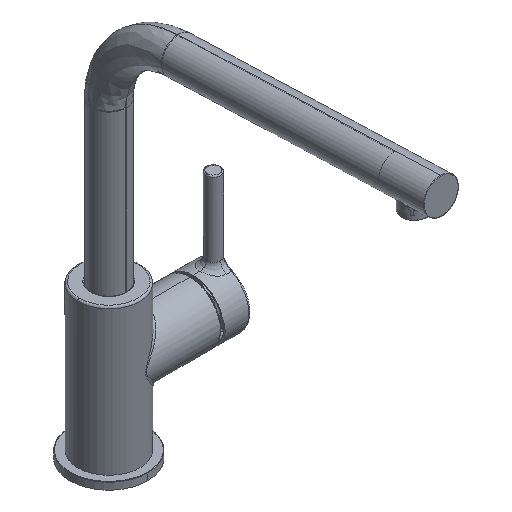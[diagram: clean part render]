
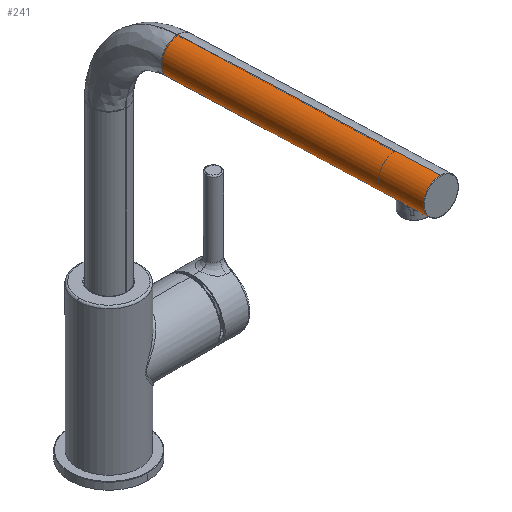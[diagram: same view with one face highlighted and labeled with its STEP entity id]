
A CAD part, isometric view. The second image highlights one B-rep face of the part: STEP entity #241.
In plain terms, the highlighted cylindrical face has radius 12 mm (diameter 24 mm), a partial arc.
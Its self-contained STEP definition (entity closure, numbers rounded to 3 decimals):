
#241=ADVANCED_FACE('',(#2442),#29660,.T.);
#2442=FACE_OUTER_BOUND('',#4591,.T.);
#4591=EDGE_LOOP('',(#7107,#7108,#7109,#7110,#7111,#7112,#7113));
#7107=ORIENTED_EDGE('',*,*,#16538,.T.);
#7108=ORIENTED_EDGE('',*,*,#16543,.F.);
#7109=ORIENTED_EDGE('',*,*,#16551,.T.);
#7110=ORIENTED_EDGE('',*,*,#16545,.F.);
#7111=ORIENTED_EDGE('',*,*,#16550,.T.);
#7112=ORIENTED_EDGE('',*,*,#16549,.T.);
#7113=ORIENTED_EDGE('',*,*,#16548,.F.);
#16538=EDGE_CURVE('',#26794,#26795,#25427,.T.);
#16543=EDGE_CURVE('',#26796,#26795,#21884,.T.);
#16545=EDGE_CURVE('',#26798,#26797,#21885,.T.);
#16548=EDGE_CURVE('',#26794,#26800,#21888,.T.);
#16549=EDGE_CURVE('',#26801,#26800,#21889,.T.);
#16550=EDGE_CURVE('',#26798,#26801,#21890,.T.);
#16551=EDGE_CURVE('',#26796,#26797,#25433,.T.);
#21884=B_SPLINE_CURVE_WITH_KNOTS('',1,(#42581,#42582),.UNSPECIFIED.,.F.,
 .F.,(2,2),(-181.556,0.),.UNSPECIFIED.);
#21885=B_SPLINE_CURVE_WITH_KNOTS('',1,(#42586,#42587),.UNSPECIFIED.,.F.,
 .F.,(2,2),(-153.756,0.),.UNSPECIFIED.);
#21888=B_SPLINE_CURVE_WITH_KNOTS('',1,(#42616,#42617),.UNSPECIFIED.,.F.,
 .F.,(2,2),(-9.6,0.),.UNSPECIFIED.);
#21889=B_SPLINE_CURVE_WITH_KNOTS('',3,(#42618,#42619,#42620,#42621,#42622,
#42623,#42624,#42625,#42626,#42627,#42628,#42629,#42630,#42631),
 .UNSPECIFIED.,.F.,.F.,(4,1,1,1,1,1,1,1,1,1,1,4),(-15.072,-13.702,
-12.331,-10.961,-9.591,-8.221,
-6.851,-5.481,-4.11,-2.74,
-1.37,0.),.UNSPECIFIED.);
#21890=B_SPLINE_CURVE_WITH_KNOTS('',3,(#42632,#42633,#42634,#42635,#42636,
#42637,#42638,#42639,#42640,#42641,#42642,#42643,#42644,#42645),
 .UNSPECIFIED.,.F.,.F.,(4,1,1,1,1,1,1,1,1,1,1,4),(-15.071,-13.701,
-12.331,-10.961,-9.591,-8.22,
-6.85,-5.48,-4.11,-2.74,
-1.37,0.),.UNSPECIFIED.);
#25427=TRIMMED_CURVE($,#26103,(#42567),(#42568),.T.,.CARTESIAN.);
#25433=TRIMMED_CURVE($,#26109,(#42647),(#42648),.T.,.CARTESIAN.);
#26103=CIRCLE('',#32879,12.);
#26109=CIRCLE('',#32885,12.);
#26794=VERTEX_POINT('',#42518);
#26795=VERTEX_POINT('',#42519);
#26796=VERTEX_POINT('',#42520);
#26797=VERTEX_POINT('',#42521);
#26798=VERTEX_POINT('',#42522);
#26800=VERTEX_POINT('',#42524);
#26801=VERTEX_POINT('',#42525);
#29660=CYLINDRICAL_SURFACE('',#32856,12.);
#32856=AXIS2_PLACEMENT_3D('',#42062,#35603,$);
#32879=AXIS2_PLACEMENT_3D($,#42566,#35627,#35628);
#32885=AXIS2_PLACEMENT_3D($,#42646,#35639,#35640);
#35603=DIRECTION('',(-0.999,-0.035,0.));
#35627=DIRECTION('',(-0.999,-0.035,0.));
#35628=DIRECTION('',(0.035,-0.999,0.));
#35639=DIRECTION('',(0.999,0.035,0.));
#35640=DIRECTION('',(-0.035,0.999,0.));
#42062=CARTESIAN_POINT('',(138.978,165.821,0.));
#42518=CARTESIAN_POINT('',(230.119,156.997,0.));
#42519=CARTESIAN_POINT('',(229.281,180.982,0.));
#42520=CARTESIAN_POINT('',(47.836,174.646,0.));
#42521=CARTESIAN_POINT('',(48.674,150.661,0.));
#42522=CARTESIAN_POINT('',(202.336,156.027,0.));
#42524=CARTESIAN_POINT('',(220.525,156.662,0.));
#42525=CARTESIAN_POINT('',(211.285,160.519,9.1));
#42566=CARTESIAN_POINT('',(229.7,168.99,0.));
#42567=CARTESIAN_POINT('',(230.119,156.997,0.));
#42568=CARTESIAN_POINT('',(229.281,180.982,0.));
#42581=CARTESIAN_POINT('',(47.836,174.646,0.));
#42582=CARTESIAN_POINT('',(229.281,180.982,0.));
#42586=CARTESIAN_POINT('',(202.336,156.027,0.));
#42587=CARTESIAN_POINT('',(48.674,150.661,0.));
#42616=CARTESIAN_POINT('',(230.119,156.997,0.));
#42617=CARTESIAN_POINT('',(220.525,156.662,0.));
#42618=CARTESIAN_POINT('',(211.285,160.519,9.1));
#42619=CARTESIAN_POINT('',(211.657,160.532,9.1));
#42620=CARTESIAN_POINT('',(212.395,160.505,9.055));
#42621=CARTESIAN_POINT('',(213.5,160.313,8.851));
#42622=CARTESIAN_POINT('',(214.533,160.008,8.529));
#42623=CARTESIAN_POINT('',(215.478,159.639,8.114));
#42624=CARTESIAN_POINT('',(216.357,159.23,7.61));
#42625=CARTESIAN_POINT('',(217.241,158.764,6.967));
#42626=CARTESIAN_POINT('',(218.16,158.229,6.108));
#42627=CARTESIAN_POINT('',(219.082,157.647,4.942));
#42628=CARTESIAN_POINT('',(219.861,157.125,3.515));
#42629=CARTESIAN_POINT('',(220.406,156.746,1.787));
#42630=CARTESIAN_POINT('',(220.525,156.662,0.605));
#42631=CARTESIAN_POINT('',(220.525,156.662,0.));
#42632=CARTESIAN_POINT('',(202.336,156.027,0.));
#42633=CARTESIAN_POINT('',(202.336,156.027,0.586));
#42634=CARTESIAN_POINT('',(202.442,156.114,1.735));
#42635=CARTESIAN_POINT('',(202.933,156.509,3.429));
#42636=CARTESIAN_POINT('',(203.651,157.068,4.853));
#42637=CARTESIAN_POINT('',(204.522,157.71,6.037));
#42638=CARTESIAN_POINT('',(205.413,158.319,6.923));
#42639=CARTESIAN_POINT('',(206.27,158.853,7.58));
#42640=CARTESIAN_POINT('',(207.122,159.328,8.093));
#42641=CARTESIAN_POINT('',(208.044,159.768,8.516));
#42642=CARTESIAN_POINT('',(209.064,160.151,8.845));
#42643=CARTESIAN_POINT('',(210.16,160.425,9.053));
#42644=CARTESIAN_POINT('',(210.905,160.506,9.1));
#42645=CARTESIAN_POINT('',(211.285,160.519,9.1));
#42646=CARTESIAN_POINT('',(48.255,162.653,0.));
#42647=CARTESIAN_POINT('',(47.836,174.646,0.));
#42648=CARTESIAN_POINT('',(48.674,150.661,0.));
